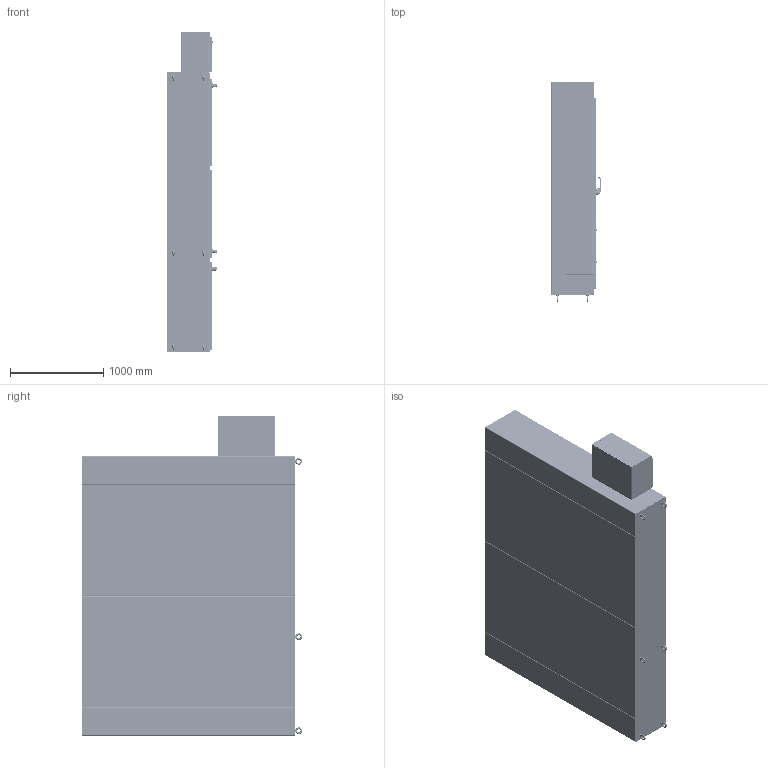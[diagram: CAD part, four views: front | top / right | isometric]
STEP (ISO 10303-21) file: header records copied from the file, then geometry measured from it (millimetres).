
FILE_DESCRIPTION((''),'2;1');
FILE_NAME('MODEL-607_ASM','2021-11-09T09:26:35',('mikek'),('SAGINAW CONTROL & ENGINEERING'),'CREO PARAMETRIC BY PTC INC, 2017260','CREO PARAMETRIC BY PTC INC, 2017260','');
FILE_SCHEMA(('AUTOMOTIVE_DESIGN { 1 0 10303 214 1 1 1 1 }'));
Length unit declared in the file: inch
Products named in the file (164): MODEL-607-3D-TP; MODEL-607-3D-R-SD; MODEL-607-3D-L-SD; MODEL-607-3D-BTM; MODEL-607-3D-R-BCK; MODEL-607-3D-L-BCK; 128003; 100028; 128003_ASM; 127619; 127619_ASM; MODEL-607-RH-CCA-CHNL; MODEL-607-RH-CCA-STIF; 100062; 128004; 128007; 102535; 100057; MODEL-607-RH-CCASSY_ASM; MODEL-607-M-CCA-CHNL; MODEL-607-M-CCA-STIF; 127618; 127617; MODEL-607-M-CCASSY_ASM; MODEL-607-M-DR; 100837; 111267; 100882; 100956_HANDLE; 100956_HANDLE_INSERT; 100956_SHAFT_CAM; 100956_ADAPTER_CAM; 100956_NUT_CAM; 100956_BASE; 100956_NUT_MOUNTING_LARGE; 100956_NUT_MOUNTING_SMALL; 100956_SCREW_SMALL; 100956_PADLOCK_CATCH; 100956_ASM; 102237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
Assembly tree (477 placements, depth 5):
  MODEL-607_ASM
    MODEL-607-3D-TP
    MODEL-607-3D-R-SD
    MODEL-607-3D-L-SD
    MODEL-607-3D-BTM
    MODEL-607-3D-R-BCK
    MODEL-607-3D-L-BCK
    128003_ASM  x2
      128003
      100028
    127619_ASM  x2
      127619
      100028
    MODEL-607-RH-CCASSY_ASM
      MODEL-607-RH-CCA-CHNL
      MODEL-607-RH-CCA-STIF
      100062  x4
      128004  x2
      128007  x2
      102535  x8
      100057  x2
    MODEL-607-M-CCASSY_ASM
      MODEL-607-M-CCA-CHNL
      MODEL-607-M-CCA-STIF
      100062  x4
      127618  x2
      127617  x2
      102535  x8
    MODEL-607-M-DOOR-ASSY_ASM
      MODEL-607-M-DR
      100837  x7
      111267
      100882  x12
      100956_ASM
        100956_HANDLE
        100956_HANDLE_INSERT
        100956_SHAFT_CAM
        100956_ADAPTER_CAM
        100956_NUT_CAM
        100956_BASE
        100956_NUT_MOUNTING_LARGE
        100956_NUT_MOUNTING_SMALL
        100956_SCREW_SMALL
        100956_PADLOCK_CATCH
      102237_ASM
        102237
        100030  x2
      MODEL-607-ROD-UPR-MD_ASM
        MODEL-607-ROD-UPR-MD
        128146
        128145
        128144
        102482  x2
      128143  x2
      112504  x2
      MODEL-607-ROD-LWR-MD_ASM
        MODEL-607-ROD-LWR-MD
        128146
        128145
        128144
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Bounding box: 534.57 x 2365.04 x 3429.77 mm (x, y, z)
Volume: 87000462.2 mm3; surface area: 57732209.4 mm2
Topology: 541 solids, 541 shells, 39372 faces, 101038 edges, 62934 vertices
Faces by surface type: plane 14057, cylinder 10632, bspline 8333, torus 2644, cone 2222, sphere 1076, extrusion 408
Entity records: 458035 total; most frequent: CARTESIAN_POINT 124025, ORIENTED_EDGE 47384, DIRECTION 46895, EDGE_CURVE 23692, PRESENTATION_STYLE_ASSIGNMENT 21804, STYLED_ITEM 21304, CURVE_STYLE 21111, AXIS2_PLACEMENT_3D 17087
